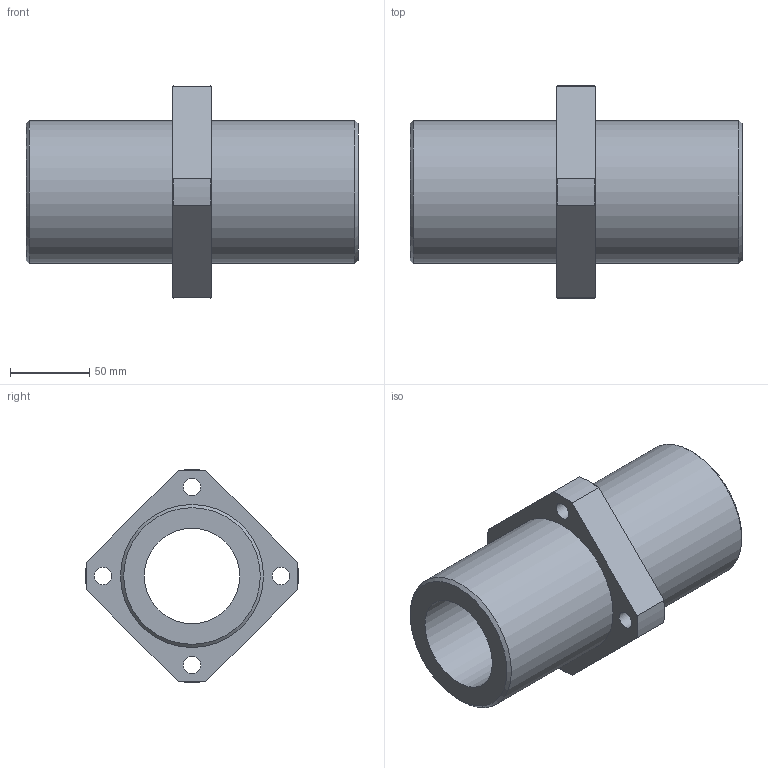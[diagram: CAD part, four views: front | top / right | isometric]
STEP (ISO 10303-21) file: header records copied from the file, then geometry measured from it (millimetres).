
FILE_DESCRIPTION(('STEP AP203'),'1');
FILE_NAME('//192.168.1.1/share/s-4 技術開発/s-4-4_CAD/s-4-4-3_見直し済み/PBC LINEAR修正済み/CFPJ/CFPJ_TOP/CFPJ/CFPJ60.step','2022-03-24T03:56:16',(' '),(' '),'Spatial InterOp 3D',' ',' ');
FILE_SCHEMA(('CONFIG_CONTROL_DESIGN'));
Length unit declared in the file: millimetre
Products named in the file (1): 1
Bounding box: 209 x 133.88 x 133.88 mm (x, y, z)
Volume: 833211.5 mm3; surface area: 120197.3 mm2
Topology: 1 solids, 1 shells, 37 faces, 91 edges, 62 vertices
Faces by surface type: cylinder 15, plane 12, cone 10
Full cylindrical faces by diameter (mm): 11 x4, 17 x4, 60 x1, 90 x2
Entity records: 1078 total; most frequent: CARTESIAN_POINT 214, DIRECTION 172, ORIENTED_EDGE 144, AXIS2_PLACEMENT_3D 78, EDGE_CURVE 72, EDGE_LOOP 66, VERTEX_POINT 56, FACE_OUTER_BOUND 48
